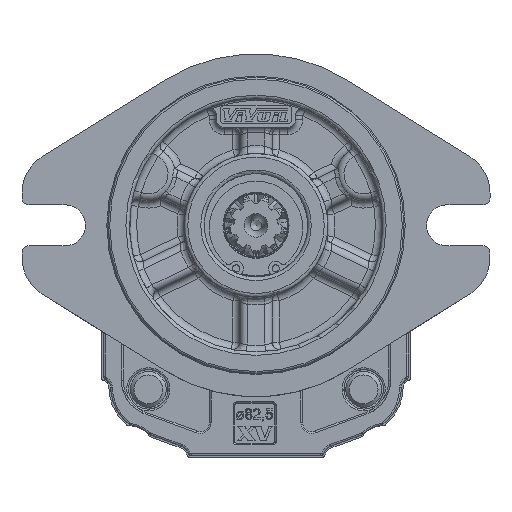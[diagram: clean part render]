
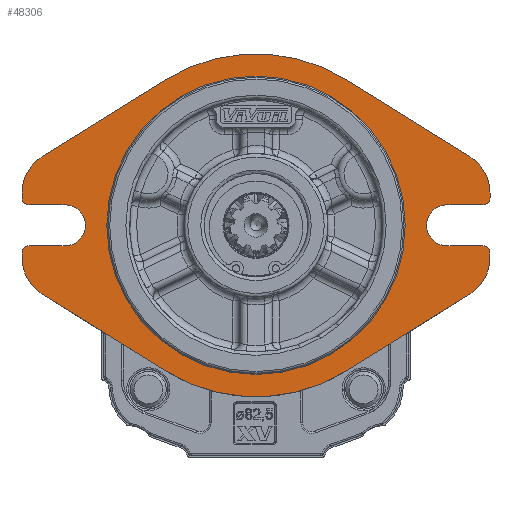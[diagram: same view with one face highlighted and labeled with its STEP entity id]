
A CAD part, front view. The second image highlights one B-rep face of the part: STEP entity #48306.
In plain terms, the highlighted planar face has unit normal (0, -1, 0).
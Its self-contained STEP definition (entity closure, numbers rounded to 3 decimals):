
#2813=LINE('',#67782,#4904);
#2817=LINE('',#67794,#4908);
#2818=LINE('',#67796,#4909);
#2825=LINE('',#67815,#4916);
#2826=LINE('',#67817,#4917);
#2833=LINE('',#67846,#4924);
#2834=LINE('',#67851,#4925);
#2835=LINE('',#67855,#4926);
#2836=LINE('',#67858,#4927);
#2837=LINE('',#67862,#4928);
#2838=LINE('',#67866,#4929);
#2839=LINE('',#67870,#4930);
#4904=VECTOR('',#55731,1000.);
#4908=VECTOR('',#55743,1000.);
#4909=VECTOR('',#55746,1000.);
#4916=VECTOR('',#55761,1000.);
#4917=VECTOR('',#55764,1000.);
#4924=VECTOR('',#55793,1000.);
#4925=VECTOR('',#55796,1000.);
#4926=VECTOR('',#55799,1000.);
#4927=VECTOR('',#55804,1000.);
#4928=VECTOR('',#55807,1000.);
#4929=VECTOR('',#55810,1000.);
#4930=VECTOR('',#55813,1000.);
#6543=PLANE('',#50874);
#10195=ORIENTED_EDGE('',*,*,#19526,.T.);
#10196=ORIENTED_EDGE('',*,*,#19527,.F.);
#10197=ORIENTED_EDGE('',*,*,#19528,.T.);
#10198=ORIENTED_EDGE('',*,*,#19529,.F.);
#10199=ORIENTED_EDGE('',*,*,#19530,.F.);
#10200=ORIENTED_EDGE('',*,*,#19531,.F.);
#10201=ORIENTED_EDGE('',*,*,#19447,.F.);
#10202=ORIENTED_EDGE('',*,*,#19496,.F.);
#10203=ORIENTED_EDGE('',*,*,#19499,.F.);
#10204=ORIENTED_EDGE('',*,*,#19502,.F.);
#10205=ORIENTED_EDGE('',*,*,#19532,.T.);
#10206=ORIENTED_EDGE('',*,*,#19503,.F.);
#10207=ORIENTED_EDGE('',*,*,#19509,.F.);
#10208=ORIENTED_EDGE('',*,*,#19512,.F.);
#10209=ORIENTED_EDGE('',*,*,#19533,.T.);
#10210=ORIENTED_EDGE('',*,*,#19513,.F.);
#10211=ORIENTED_EDGE('',*,*,#19525,.F.);
#10212=ORIENTED_EDGE('',*,*,#19534,.F.);
#10213=ORIENTED_EDGE('',*,*,#19535,.F.);
#10214=ORIENTED_EDGE('',*,*,#19536,.F.);
#10215=ORIENTED_EDGE('',*,*,#19537,.F.);
#10216=ORIENTED_EDGE('',*,*,#19538,.F.);
#10217=ORIENTED_EDGE('',*,*,#19539,.T.);
#10218=ORIENTED_EDGE('',*,*,#19540,.F.);
#10219=ORIENTED_EDGE('',*,*,#19541,.F.);
#19447=EDGE_CURVE('',#24259,#24260,#27046,.T.);
#19496=EDGE_CURVE('',#24302,#24259,#2813,.T.);
#19499=EDGE_CURVE('',#24304,#24302,#27074,.T.);
#19502=EDGE_CURVE('',#24306,#24304,#2817,.T.);
#19503=EDGE_CURVE('',#24307,#24308,#2818,.T.);
#19509=EDGE_CURVE('',#24312,#24307,#27076,.T.);
#19512=EDGE_CURVE('',#24314,#24312,#2825,.T.);
#19513=EDGE_CURVE('',#24315,#24316,#2826,.T.);
#19525=EDGE_CURVE('',#24324,#24315,#27082,.T.);
#19526=EDGE_CURVE('',#24325,#24325,#27083,.T.);
#19527=EDGE_CURVE('',#24326,#24327,#2833,.T.);
#19528=EDGE_CURVE('',#24326,#24328,#27084,.F.);
#19529=EDGE_CURVE('',#24329,#24328,#2834,.T.);
#19530=EDGE_CURVE('',#24330,#24329,#27085,.T.);
#19531=EDGE_CURVE('',#24260,#24330,#2835,.T.);
#19532=EDGE_CURVE('',#24306,#24308,#27086,.F.);
#19533=EDGE_CURVE('',#24314,#24316,#27087,.F.);
#19534=EDGE_CURVE('',#24331,#24324,#2836,.T.);
#19535=EDGE_CURVE('',#24332,#24331,#27088,.T.);
#19536=EDGE_CURVE('',#24333,#24332,#2837,.T.);
#19537=EDGE_CURVE('',#24334,#24333,#27089,.T.);
#19538=EDGE_CURVE('',#24335,#24334,#2838,.T.);
#19539=EDGE_CURVE('',#24335,#24336,#27090,.F.);
#19540=EDGE_CURVE('',#24337,#24336,#2839,.T.);
#19541=EDGE_CURVE('',#24327,#24337,#27091,.T.);
#24259=VERTEX_POINT('',#67682);
#24260=VERTEX_POINT('',#67684);
#24302=VERTEX_POINT('',#67781);
#24304=VERTEX_POINT('',#67787);
#24306=VERTEX_POINT('',#67793);
#24307=VERTEX_POINT('',#67797);
#24308=VERTEX_POINT('',#67798);
#24312=VERTEX_POINT('',#67808);
#24314=VERTEX_POINT('',#67814);
#24315=VERTEX_POINT('',#67818);
#24316=VERTEX_POINT('',#67819);
#24324=VERTEX_POINT('',#67841);
#24325=VERTEX_POINT('',#67845);
#24326=VERTEX_POINT('',#67847);
#24327=VERTEX_POINT('',#67848);
#24328=VERTEX_POINT('',#67850);
#24329=VERTEX_POINT('',#67852);
#24330=VERTEX_POINT('',#67854);
#24331=VERTEX_POINT('',#67859);
#24332=VERTEX_POINT('',#67861);
#24333=VERTEX_POINT('',#67863);
#24334=VERTEX_POINT('',#67865);
#24335=VERTEX_POINT('',#67867);
#24336=VERTEX_POINT('',#67869);
#24337=VERTEX_POINT('',#67871);
#27046=CIRCLE('',#50823,47.75);
#27074=CIRCLE('',#50857,12.);
#27076=CIRCLE('',#50862,5.7);
#27082=CIRCLE('',#50873,12.);
#27083=CIRCLE('',#50875,40.982);
#27084=CIRCLE('',#50876,2.);
#27085=CIRCLE('',#50877,12.);
#27086=CIRCLE('',#50878,2.);
#27087=CIRCLE('',#50879,2.);
#27088=CIRCLE('',#50880,47.75);
#27089=CIRCLE('',#50881,12.);
#27090=CIRCLE('',#50882,2.);
#27091=CIRCLE('',#50883,5.7);
#28884=EDGE_LOOP('',(#10195));
#28885=EDGE_LOOP('',(#10196,#10197,#10198,#10199,#10200,#10201,#10202,#10203,
#10204,#10205,#10206,#10207,#10208,#10209,#10210,#10211,#10212,#10213,#10214,
#10215,#10216,#10217,#10218,#10219));
#31272=FACE_BOUND('',#28884,.T.);
#31273=FACE_BOUND('',#28885,.T.);
#48306=ADVANCED_FACE('',(#31272,#31273),#6543,.F.);
#50823=AXIS2_PLACEMENT_3D('',#67683,#55647,#55648);
#50857=AXIS2_PLACEMENT_3D('',#67788,#55737,#55738);
#50862=AXIS2_PLACEMENT_3D('',#67809,#55755,#55756);
#50873=AXIS2_PLACEMENT_3D('',#67842,#55787,#55788);
#50874=AXIS2_PLACEMENT_3D('',#67843,#55789,#55790);
#50875=AXIS2_PLACEMENT_3D('',#67844,#55791,#55792);
#50876=AXIS2_PLACEMENT_3D('',#67849,#55794,#55795);
#50877=AXIS2_PLACEMENT_3D('',#67853,#55797,#55798);
#50878=AXIS2_PLACEMENT_3D('',#67856,#55800,#55801);
#50879=AXIS2_PLACEMENT_3D('',#67857,#55802,#55803);
#50880=AXIS2_PLACEMENT_3D('',#67860,#55805,#55806);
#50881=AXIS2_PLACEMENT_3D('',#67864,#55808,#55809);
#50882=AXIS2_PLACEMENT_3D('',#67868,#55811,#55812);
#50883=AXIS2_PLACEMENT_3D('',#67872,#55814,#55815);
#55647=DIRECTION('',(0.,1.,0.));
#55648=DIRECTION('',(-1.,0.,0.));
#55731=DIRECTION('',(-0.849,0.,-0.528));
#55737=DIRECTION('',(0.,1.,0.));
#55738=DIRECTION('',(-1.,0.,0.));
#55743=DIRECTION('',(0.,0.,-1.));
#55746=DIRECTION('',(1.,0.,0.));
#55755=DIRECTION('',(0.,-1.,0.));
#55756=DIRECTION('',(1.,0.,0.));
#55761=DIRECTION('',(-1.,0.,0.));
#55764=DIRECTION('',(0.,0.,-1.));
#55787=DIRECTION('',(0.,1.,0.));
#55788=DIRECTION('',(-1.,0.,0.));
#55789=DIRECTION('',(0.,1.,0.));
#55790=DIRECTION('',(0.,0.,-1.));
#55791=DIRECTION('',(0.,1.,0.));
#55792=DIRECTION('',(-1.,0.,0.));
#55793=DIRECTION('',(1.,0.,0.));
#55794=DIRECTION('',(0.,1.,0.));
#55795=DIRECTION('',(0.,0.,-1.));
#55796=DIRECTION('',(0.,0.,1.));
#55797=DIRECTION('',(0.,1.,0.));
#55798=DIRECTION('',(1.,0.,0.));
#55799=DIRECTION('',(-0.849,0.,0.528));
#55800=DIRECTION('',(0.,1.,0.));
#55801=DIRECTION('',(0.,0.,-1.));
#55802=DIRECTION('',(0.,1.,0.));
#55803=DIRECTION('',(0.,0.,-1.));
#55804=DIRECTION('',(0.849,0.,-0.528));
#55805=DIRECTION('',(0.,1.,0.));
#55806=DIRECTION('',(-1.,0.,0.));
#55807=DIRECTION('',(0.849,0.,0.528));
#55808=DIRECTION('',(0.,1.,0.));
#55809=DIRECTION('',(1.,0.,0.));
#55810=DIRECTION('',(0.,0.,1.));
#55811=DIRECTION('',(0.,1.,0.));
#55812=DIRECTION('',(0.,0.,-1.));
#55813=DIRECTION('',(-1.,0.,0.));
#55814=DIRECTION('',(0.,-1.,0.));
#55815=DIRECTION('',(-1.,0.,0.));
#67682=CARTESIAN_POINT('',(25.235,-19.,-24.837));
#67683=CARTESIAN_POINT('',(0.,-19.,15.7));
#67684=CARTESIAN_POINT('',(-25.235,-19.,-24.837));
#67781=CARTESIAN_POINT('',(59.532,-19.,-3.487));
#67782=CARTESIAN_POINT('',(59.532,-19.,-3.487));
#67787=CARTESIAN_POINT('',(65.19,-19.,6.7));
#67788=CARTESIAN_POINT('',(53.19,-19.,6.7));
#67793=CARTESIAN_POINT('',(65.19,-19.,8.));
#67794=CARTESIAN_POINT('',(65.19,-19.,6.7));
#67796=CARTESIAN_POINT('',(53.19,-19.,10.));
#67797=CARTESIAN_POINT('',(53.19,-19.,10.));
#67798=CARTESIAN_POINT('',(63.19,-19.,10.));
#67808=CARTESIAN_POINT('',(53.19,-19.,21.4));
#67809=CARTESIAN_POINT('',(53.19,-19.,15.7));
#67814=CARTESIAN_POINT('',(63.19,-19.,21.4));
#67815=CARTESIAN_POINT('',(53.19,-19.,21.4));
#67817=CARTESIAN_POINT('',(65.19,-19.,24.7));
#67818=CARTESIAN_POINT('',(65.19,-19.,24.7));
#67819=CARTESIAN_POINT('',(65.19,-19.,23.4));
#67841=CARTESIAN_POINT('',(59.532,-19.,34.887));
#67842=CARTESIAN_POINT('',(53.19,-19.,24.7));
#67843=CARTESIAN_POINT('',(0.,-19.,15.7));
#67844=CARTESIAN_POINT('',(0.,-19.,15.7));
#67845=CARTESIAN_POINT('',(-40.982,-19.,15.7));
#67846=CARTESIAN_POINT('',(-53.19,-19.,10.));
#67847=CARTESIAN_POINT('',(-63.19,-19.,10.));
#67848=CARTESIAN_POINT('',(-53.19,-19.,10.));
#67849=CARTESIAN_POINT('',(-63.19,-19.,8.));
#67850=CARTESIAN_POINT('',(-65.19,-19.,8.));
#67851=CARTESIAN_POINT('',(-65.19,-19.,6.7));
#67852=CARTESIAN_POINT('',(-65.19,-19.,6.7));
#67853=CARTESIAN_POINT('',(-53.19,-19.,6.7));
#67854=CARTESIAN_POINT('',(-59.532,-19.,-3.487));
#67855=CARTESIAN_POINT('',(-59.532,-19.,-3.487));
#67856=CARTESIAN_POINT('',(63.19,-19.,8.));
#67857=CARTESIAN_POINT('',(63.19,-19.,23.4));
#67858=CARTESIAN_POINT('',(25.235,-19.,56.237));
#67859=CARTESIAN_POINT('',(25.235,-19.,56.237));
#67860=CARTESIAN_POINT('',(0.,-19.,15.7));
#67861=CARTESIAN_POINT('',(-25.235,-19.,56.237));
#67862=CARTESIAN_POINT('',(-25.235,-19.,56.237));
#67863=CARTESIAN_POINT('',(-59.532,-19.,34.887));
#67864=CARTESIAN_POINT('',(-53.19,-19.,24.7));
#67865=CARTESIAN_POINT('',(-65.19,-19.,24.7));
#67866=CARTESIAN_POINT('',(-65.19,-19.,24.7));
#67867=CARTESIAN_POINT('',(-65.19,-19.,23.4));
#67868=CARTESIAN_POINT('',(-63.19,-19.,23.4));
#67869=CARTESIAN_POINT('',(-63.19,-19.,21.4));
#67870=CARTESIAN_POINT('',(-53.19,-19.,21.4));
#67871=CARTESIAN_POINT('',(-53.19,-19.,21.4));
#67872=CARTESIAN_POINT('',(-53.19,-19.,15.7));
